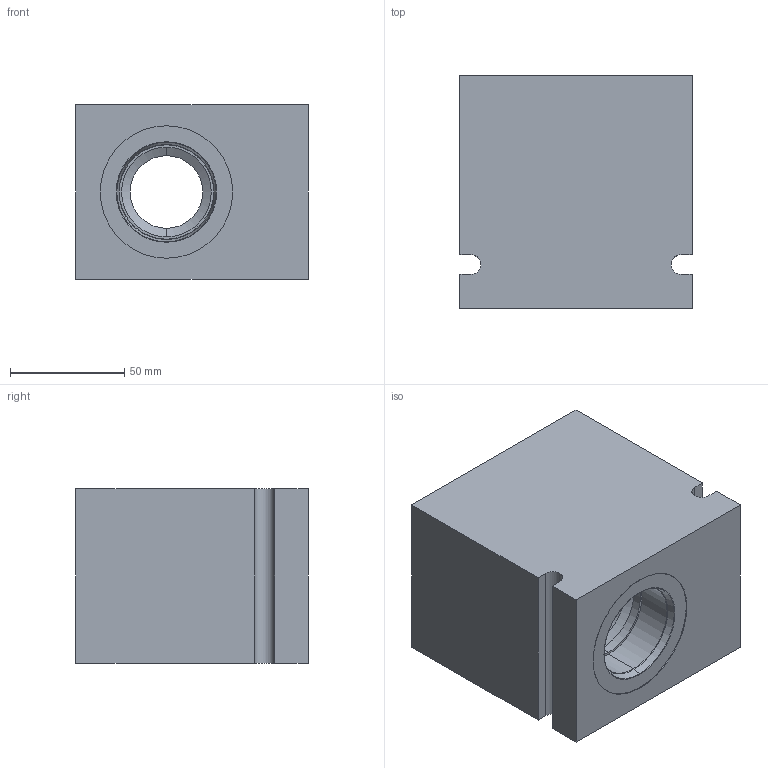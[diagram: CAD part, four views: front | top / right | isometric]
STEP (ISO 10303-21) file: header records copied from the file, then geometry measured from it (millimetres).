
FILE_DESCRIPTION((''),'2;1');
FILE_NAME('7022580','2007-11-12T',('KC2'),(''),'PRO/ENGINEER BY PARAMETRIC TECHNOLOGY CORPORATION, 2005310','PRO/ENGINEER BY PARAMETRIC TECHNOLOGY CORPORATION, 2005310','');
FILE_SCHEMA(('CONFIG_CONTROL_DESIGN'));
Length unit declared in the file: inch
Products named in the file (1): 7022580
Bounding box: 101.6 x 101.6 x 76.2 mm (x, y, z)
Volume: 611785.4 mm3; surface area: 67132 mm2
Topology: 1 solids, 1 shells, 70 faces, 155 edges, 92 vertices
Faces by surface type: cylinder 26, plane 18, cone 18, torus 8
Entity records: 2003 total; most frequent: DIRECTION 371, CARTESIAN_POINT 351, ORIENTED_EDGE 310, EDGE_CURVE 155, AXIS2_PLACEMENT_3D 148, VERTEX_POINT 92, EDGE_LOOP 79, CIRCLE 78
